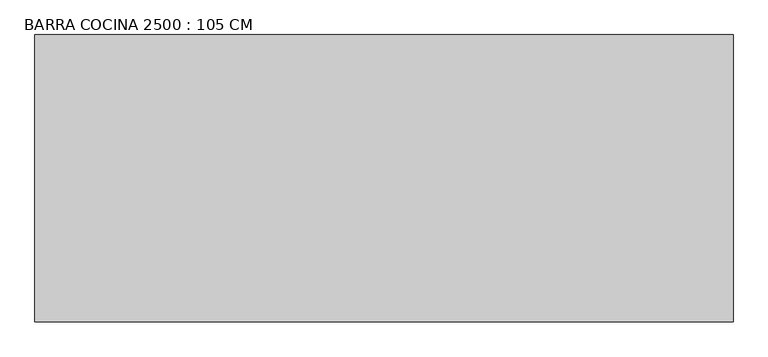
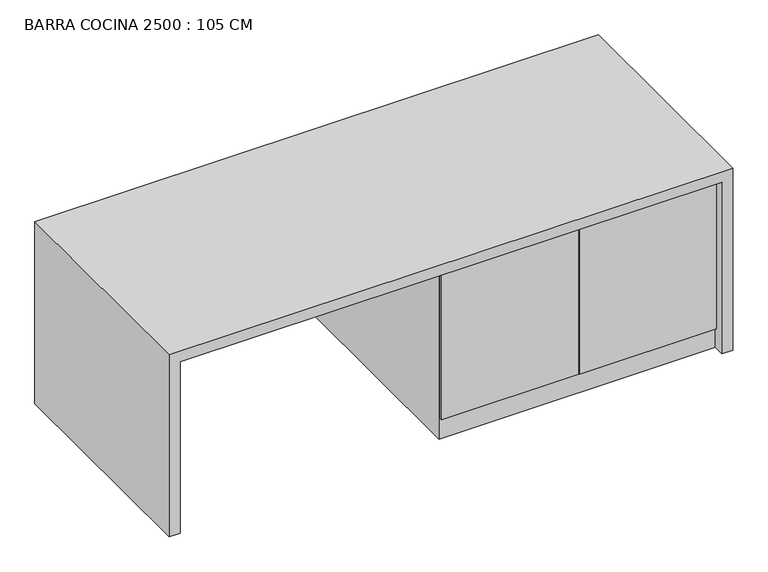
"""IFC4 building model written with IfcOpenShell, lengths in millimetres: furniture geometry, BARRA COCINA 2500 : 105 CM."""

from ifc_helpers import new_model, si_unit, frame, origin, origin_with_axes, place, context, project, spatial, polyline, outline, extrude, source, transform, mapped, element, save


def barra_cocina_2500_105_cm_d31bc55a(model_context):
    return source(origin(), model_context, "Body", "SweptSolid", [
        extrude(outline(polyline([(618.2003264, -1156.9478902), (-2.2996736, -1156.9478902), (-2.2996736, -1141.9478902), (618.2003264, -1141.9478902), (618.2003264, -1156.9478902)])), frame((0.0, 0.0, 100.0), z_axis=(0.0, 0.0, 1.0), x_axis=(1.0, 0.0, 0.0)), (0.0, 0.0, 1.0), 715.0),
        extrude(outline(polyline([(1241.7003264, -1156.9478902), (621.2003264, -1156.9478902), (621.2003264, -1141.9478902), (1241.7003264, -1141.9478902), (1241.7003264, -1156.9478902)])), frame((0.0, 0.0, 100.0), z_axis=(0.0, 0.0, 1.0), x_axis=(1.0, 0.0, 0.0)), (0.0, 0.0, 1.0), 715.0),
        extrude(outline(polyline([(870.0, 1294.7003264), (870.0, -1255.2996736), (0.0, -1255.2996736), (0.0, -1205.2996736), (820.0, -1205.2996736), (820.0, 1244.7003264), (0.0, 1244.7003264), (0.0, 1294.7003264), (870.0, 1294.7003264)])), frame((0.0, -1191.9478902, 0.0), z_axis=(0.0, 1.0, 0.0), x_axis=(0.0, 0.0, 1.0)), (0.0, 0.0, 1.0), 1050.0),
        extrude(outline(polyline([(1244.7003264, -141.9478902), (1244.7003264, -1141.9478902), (-5.2996736, -1141.9478902), (-5.2996736, -141.9478902), (1244.7003264, -141.9478902)])), origin_with_axes(), (0.0, 0.0, 1.0), 820.0),
    ])


if __name__ == "__main__":
    model = new_model("IFC4")
    model_context = context("Model", 3, world=origin())
    ifc_project = project(units=[si_unit("LENGTHUNIT", "METRE", prefix="MILLI")], contexts=[model_context])
    site = spatial("IfcSite", under=ifc_project)
    building = spatial("IfcBuilding", under=site)
    placement = place(None, origin())
    barra_cocina_2500_105_cm_shape = barra_cocina_2500_105_cm_d31bc55a(model_context)
    element("IfcFurniture", 1, ObjectType="BARRA COCINA 2500 : 105 CM", at=placement, inside=building, context=model_context, shape_type="MappedRepresentation", body=[
        mapped(barra_cocina_2500_105_cm_shape, transform((0.0, 0.0, 0.0), x_axis=(1.0, 0.0, 0.0), y_axis=(0.0, 1.0, 0.0), z_axis=(0.0, 0.0, 1.0))),
    ])
    save(model, "model.ifc")
